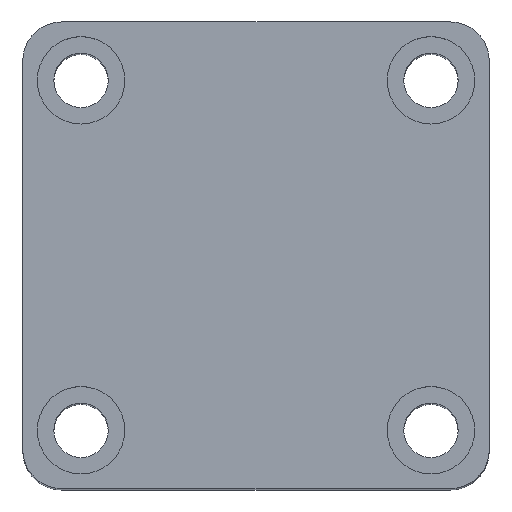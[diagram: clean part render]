
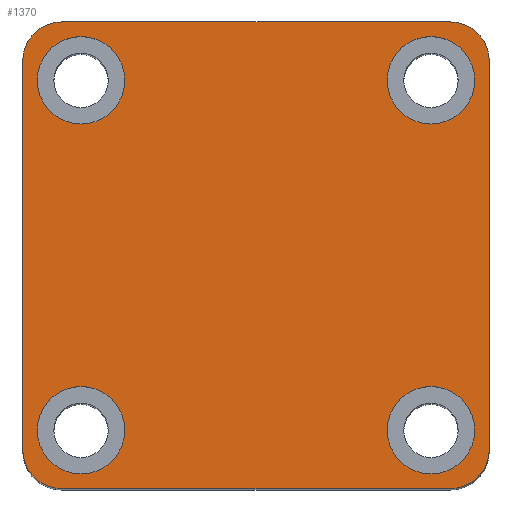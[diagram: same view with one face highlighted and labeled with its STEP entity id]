
A CAD part, top view. The second image highlights one B-rep face of the part: STEP entity #1370.
In plain terms, the highlighted planar face has unit normal (0, 0, 1).
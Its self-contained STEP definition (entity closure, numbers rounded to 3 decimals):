
#42 = ORIENTED_EDGE ( 'NONE', *, *, #2039, .T. ) ;
#44 = ORIENTED_EDGE ( 'NONE', *, *, #1964, .T. ) ;
#45 = ORIENTED_EDGE ( 'NONE', *, *, #2029, .T. ) ;
#46 = ORIENTED_EDGE ( 'NONE', *, *, #2065, .T. ) ;
#47 = ORIENTED_EDGE ( 'NONE', *, *, #2080, .T. ) ;
#51 = ORIENTED_EDGE ( 'NONE', *, *, #1972, .T. ) ;
#75 = ORIENTED_EDGE ( 'NONE', *, *, #1940, .T. ) ;
#86 = ORIENTED_EDGE ( 'NONE', *, *, #2024, .F. ) ;
#87 = ORIENTED_EDGE ( 'NONE', *, *, #2014, .F. ) ;
#111 = ORIENTED_EDGE ( 'NONE', *, *, #2035, .T. ) ;
#116 = VERTEX_POINT ( 'NONE', #1727 ) ;
#134 = VERTEX_POINT ( 'NONE', #1678 ) ;
#138 = VERTEX_POINT ( 'NONE', #1658 ) ;
#142 = VERTEX_POINT ( 'NONE', #1648 ) ;
#144 = VERTEX_POINT ( 'NONE', #1641 ) ;
#150 = VERTEX_POINT ( 'NONE', #1618 ) ;
#160 = VERTEX_POINT ( 'NONE', #1528 ) ;
#162 = VERTEX_POINT ( 'NONE', #1501 ) ;
#167 = VERTEX_POINT ( 'NONE', #1473 ) ;
#172 = VERTEX_POINT ( 'NONE', #1462 ) ;
#174 = VERTEX_POINT ( 'NONE', #1458 ) ;
#177 = VERTEX_POINT ( 'NONE', #1446 ) ;
#195 = VERTEX_POINT ( 'NONE', #1411 ) ;
#207 = VERTEX_POINT ( 'NONE', #1819 ) ;
#214 = VERTEX_POINT ( 'NONE', #1812 ) ;
#341 = ORIENTED_EDGE ( 'NONE', *, *, #2025, .F. ) ;
#345 = ORIENTED_EDGE ( 'NONE', *, *, #2064, .F. ) ;
#353 = ORIENTED_EDGE ( 'NONE', *, *, #2028, .F. ) ;
#397 = ORIENTED_EDGE ( 'NONE', *, *, #2086, .F. ) ;
#398 = ORIENTED_EDGE ( 'NONE', *, *, #2070, .F. ) ;
#435 = ORIENTED_EDGE ( 'NONE', *, *, #2026, .F. ) ;
#443 = VERTEX_POINT ( 'NONE', #1795 ) ;
#451 = CIRCLE ( 'NONE', #1043, 4.5 ) ;
#454 = VECTOR ( 'NONE', #2658, 1000. ) ;
#456 = LINE ( 'NONE', #2642, #454 ) ;
#458 = CIRCLE ( 'NONE', #1045, 4.5 ) ;
#487 = CIRCLE ( 'NONE', #1062, 4. ) ;
#489 = CIRCLE ( 'NONE', #1061, 4. ) ;
#492 = CIRCLE ( 'NONE', #1066, 4. ) ;
#493 = CIRCLE ( 'NONE', #1067, 4.5 ) ;
#495 = CIRCLE ( 'NONE', #1068, 4.5 ) ;
#497 = CIRCLE ( 'NONE', #1070, 4.5 ) ;
#501 = CIRCLE ( 'NONE', #1069, 4.5 ) ;
#513 = CIRCLE ( 'NONE', #1073, 4.5 ) ;
#559 = VECTOR ( 'NONE', #2390, 1000. ) ;
#567 = LINE ( 'NONE', #2382, #559 ) ;
#573 = VECTOR ( 'NONE', #2403, 1000. ) ;
#577 = LINE ( 'NONE', #2413, #573 ) ;
#601 = VECTOR ( 'NONE', #2418, 1000. ) ;
#606 = LINE ( 'NONE', #1405, #601 ) ;
#676 = FACE_BOUND ( 'NONE', #848, .T. ) ;
#677 = FACE_BOUND ( 'NONE', #820, .T. ) ;
#679 = FACE_BOUND ( 'NONE', #823, .T. ) ;
#680 = FACE_BOUND ( 'NONE', #812, .T. ) ;
#682 = FACE_OUTER_BOUND ( 'NONE', #791, .T. ) ;
#791 = EDGE_LOOP ( 'NONE', ( #75, #111, #51, #47, #46, #45, #44, #42 ) ) ;
#812 = EDGE_LOOP ( 'NONE', ( #86, #87 ) ) ;
#820 = EDGE_LOOP ( 'NONE', ( #353, #397 ) ) ;
#823 = EDGE_LOOP ( 'NONE', ( #435, #345 ) ) ;
#848 = EDGE_LOOP ( 'NONE', ( #341, #398 ) ) ;
#1033 = AXIS2_PLACEMENT_3D ( 'NONE', #2515, #2514, #2513 ) ;
#1038 = AXIS2_PLACEMENT_3D ( 'NONE', #2532, #2531, #2530 ) ;
#1043 = AXIS2_PLACEMENT_3D ( 'NONE', #2556, #2554, #2553 ) ;
#1045 = AXIS2_PLACEMENT_3D ( 'NONE', #2625, #2595, #2624 ) ;
#1061 = AXIS2_PLACEMENT_3D ( 'NONE', #2214, #2212, #2211 ) ;
#1062 = AXIS2_PLACEMENT_3D ( 'NONE', #2232, #2231, #2230 ) ;
#1066 = AXIS2_PLACEMENT_3D ( 'NONE', #2256, #2254, #2253 ) ;
#1067 = AXIS2_PLACEMENT_3D ( 'NONE', #2262, #2261, #2260 ) ;
#1068 = AXIS2_PLACEMENT_3D ( 'NONE', #2268, #2267, #2265 ) ;
#1069 = AXIS2_PLACEMENT_3D ( 'NONE', #2272, #2271, #2270 ) ;
#1070 = AXIS2_PLACEMENT_3D ( 'NONE', #2277, #2276, #2275 ) ;
#1073 = AXIS2_PLACEMENT_3D ( 'NONE', #2198, #2197, #2196 ) ;
#1109 = CIRCLE ( 'NONE', #1033, 4.5 ) ;
#1124 = CIRCLE ( 'NONE', #1038, 4. ) ;
#1370 = ADVANCED_FACE ( 'NONE', ( #680, #676, #679, #677, #682 ), #1555, .T. ) ;
#1405 = CARTESIAN_POINT ( 'NONE',  ( -24., 24., 85. ) ) ;
#1411 = CARTESIAN_POINT ( 'NONE',  ( -22.5, 18., 85. ) ) ;
#1446 = CARTESIAN_POINT ( 'NONE',  ( -24., -20., 85. ) ) ;
#1458 = CARTESIAN_POINT ( 'NONE',  ( -13.5, 18., 85. ) ) ;
#1462 = CARTESIAN_POINT ( 'NONE',  ( -24., 20., 85. ) ) ;
#1473 = CARTESIAN_POINT ( 'NONE',  ( 24., 20., 85. ) ) ;
#1501 = CARTESIAN_POINT ( 'NONE',  ( 20., -24., 85. ) ) ;
#1528 = CARTESIAN_POINT ( 'NONE',  ( -20., 24., 85. ) ) ;
#1552 = DIRECTION ( 'NONE',  ( 1., 0., 0. ) ) ;
#1555 = PLANE ( 'NONE',  #1879 ) ;
#1558 = CARTESIAN_POINT ( 'NONE',  ( 0., 0., 85. ) ) ;
#1559 = DIRECTION ( 'NONE',  ( 0., 0., 1. ) ) ;
#1618 = CARTESIAN_POINT ( 'NONE',  ( -22.5, -18., 85. ) ) ;
#1641 = CARTESIAN_POINT ( 'NONE',  ( 13.5, -18., 85. ) ) ;
#1648 = CARTESIAN_POINT ( 'NONE',  ( -20., -24., 85. ) ) ;
#1658 = CARTESIAN_POINT ( 'NONE',  ( 22.5, -18., 85. ) ) ;
#1678 = CARTESIAN_POINT ( 'NONE',  ( 20., 24., 85. ) ) ;
#1727 = CARTESIAN_POINT ( 'NONE',  ( -13.5, -18., 85. ) ) ;
#1795 = CARTESIAN_POINT ( 'NONE',  ( 13.5, 18., 85. ) ) ;
#1812 = CARTESIAN_POINT ( 'NONE',  ( 22.5, 18., 85. ) ) ;
#1819 = CARTESIAN_POINT ( 'NONE',  ( 24., -20., 85. ) ) ;
#1879 = AXIS2_PLACEMENT_3D ( 'NONE', #1558, #1559, #1552 ) ;
#1940 = EDGE_CURVE ( 'NONE', #134, #160, #606, .T. ) ;
#1964 = EDGE_CURVE ( 'NONE', #207, #167, #577, .T. ) ;
#1972 = EDGE_CURVE ( 'NONE', #172, #177, #567, .T. ) ;
#2014 = EDGE_CURVE ( 'NONE', #195, #174, #513, .T. ) ;
#2024 = EDGE_CURVE ( 'NONE', #174, #195, #497, .T. ) ;
#2025 = EDGE_CURVE ( 'NONE', #214, #443, #501, .T. ) ;
#2026 = EDGE_CURVE ( 'NONE', #116, #150, #495, .T. ) ;
#2028 = EDGE_CURVE ( 'NONE', #138, #144, #493, .T. ) ;
#2029 = EDGE_CURVE ( 'NONE', #162, #207, #492, .T. ) ;
#2035 = EDGE_CURVE ( 'NONE', #160, #172, #487, .T. ) ;
#2039 = EDGE_CURVE ( 'NONE', #167, #134, #489, .T. ) ;
#2064 = EDGE_CURVE ( 'NONE', #150, #116, #458, .T. ) ;
#2065 = EDGE_CURVE ( 'NONE', #142, #162, #456, .T. ) ;
#2070 = EDGE_CURVE ( 'NONE', #443, #214, #451, .T. ) ;
#2080 = EDGE_CURVE ( 'NONE', #177, #142, #1124, .T. ) ;
#2086 = EDGE_CURVE ( 'NONE', #144, #138, #1109, .T. ) ;
#2196 = DIRECTION ( 'NONE',  ( 1., 0., 0. ) ) ;
#2197 = DIRECTION ( 'NONE',  ( 0., 0., 1. ) ) ;
#2198 = CARTESIAN_POINT ( 'NONE',  ( -18., 18., 85. ) ) ;
#2211 = DIRECTION ( 'NONE',  ( 1., 0., 0. ) ) ;
#2212 = DIRECTION ( 'NONE',  ( 0., 0., 1. ) ) ;
#2214 = CARTESIAN_POINT ( 'NONE',  ( 20., 20., 85. ) ) ;
#2230 = DIRECTION ( 'NONE',  ( 1., 0., 0. ) ) ;
#2231 = DIRECTION ( 'NONE',  ( 0., 0., 1. ) ) ;
#2232 = CARTESIAN_POINT ( 'NONE',  ( -20., 20., 85. ) ) ;
#2253 = DIRECTION ( 'NONE',  ( 1., 0., 0. ) ) ;
#2254 = DIRECTION ( 'NONE',  ( 0., 0., 1. ) ) ;
#2256 = CARTESIAN_POINT ( 'NONE',  ( 20., -20., 85. ) ) ;
#2260 = DIRECTION ( 'NONE',  ( 1., 0., 0. ) ) ;
#2261 = DIRECTION ( 'NONE',  ( 0., 0., 1. ) ) ;
#2262 = CARTESIAN_POINT ( 'NONE',  ( 18., -18., 85. ) ) ;
#2265 = DIRECTION ( 'NONE',  ( 1., 0., 0. ) ) ;
#2267 = DIRECTION ( 'NONE',  ( 0., 0., 1. ) ) ;
#2268 = CARTESIAN_POINT ( 'NONE',  ( -18., -18., 85. ) ) ;
#2270 = DIRECTION ( 'NONE',  ( 1., 0., 0. ) ) ;
#2271 = DIRECTION ( 'NONE',  ( 0., 0., 1. ) ) ;
#2272 = CARTESIAN_POINT ( 'NONE',  ( 18., 18., 85. ) ) ;
#2275 = DIRECTION ( 'NONE',  ( 1., 0., 0. ) ) ;
#2276 = DIRECTION ( 'NONE',  ( 0., 0., 1. ) ) ;
#2277 = CARTESIAN_POINT ( 'NONE',  ( -18., 18., 85. ) ) ;
#2382 = CARTESIAN_POINT ( 'NONE',  ( -24., 24., 85. ) ) ;
#2390 = DIRECTION ( 'NONE',  ( 0., -1., 0. ) ) ;
#2403 = DIRECTION ( 'NONE',  ( 0., 1., 0. ) ) ;
#2413 = CARTESIAN_POINT ( 'NONE',  ( 24., 24., 85. ) ) ;
#2418 = DIRECTION ( 'NONE',  ( -1., 0., 0. ) ) ;
#2513 = DIRECTION ( 'NONE',  ( 1., 0., 0. ) ) ;
#2514 = DIRECTION ( 'NONE',  ( 0., 0., 1. ) ) ;
#2515 = CARTESIAN_POINT ( 'NONE',  ( 18., -18., 85. ) ) ;
#2530 = DIRECTION ( 'NONE',  ( 1., 0., 0. ) ) ;
#2531 = DIRECTION ( 'NONE',  ( 0., 0., 1. ) ) ;
#2532 = CARTESIAN_POINT ( 'NONE',  ( -20., -20., 85. ) ) ;
#2553 = DIRECTION ( 'NONE',  ( 1., 0., 0. ) ) ;
#2554 = DIRECTION ( 'NONE',  ( 0., 0., 1. ) ) ;
#2556 = CARTESIAN_POINT ( 'NONE',  ( 18., 18., 85. ) ) ;
#2595 = DIRECTION ( 'NONE',  ( 0., 0., 1. ) ) ;
#2624 = DIRECTION ( 'NONE',  ( 1., 0., 0. ) ) ;
#2625 = CARTESIAN_POINT ( 'NONE',  ( -18., -18., 85. ) ) ;
#2642 = CARTESIAN_POINT ( 'NONE',  ( -24., -24., 85. ) ) ;
#2658 = DIRECTION ( 'NONE',  ( 1., 0., 0. ) ) ;
